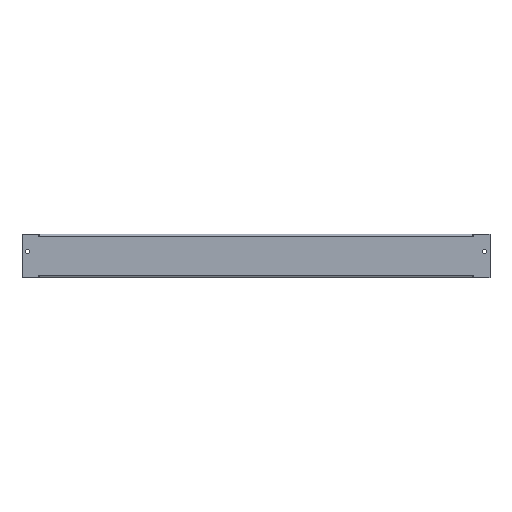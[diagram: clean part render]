
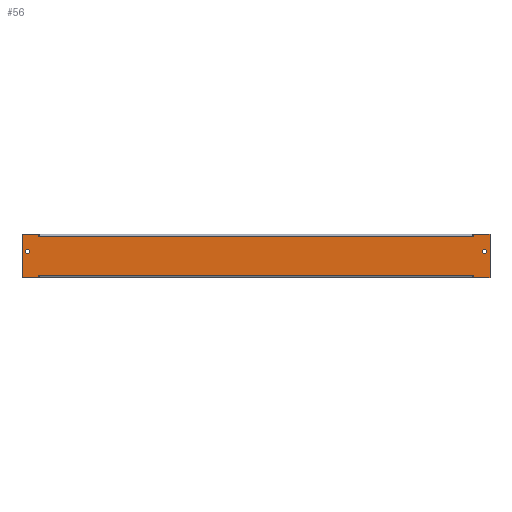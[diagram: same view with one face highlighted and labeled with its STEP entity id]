
A CAD part, top view. The second image highlights one B-rep face of the part: STEP entity #56.
In plain terms, the highlighted planar face has unit normal (0, 0, 1).
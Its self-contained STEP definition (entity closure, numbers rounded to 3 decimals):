
#56=ADVANCED_FACE('',(#118,#120,#122),#124,.F.);
#118=FACE_BOUND('',#119,.T.);
#119=EDGE_LOOP('',(#375,#376,#377,#378,#379,#380,#381,#382,#383,#384,#385,#386,#387,
#388,#389,#390));
#120=FACE_BOUND('',#121,.T.);
#121=EDGE_LOOP('',(#391));
#122=FACE_BOUND('',#123,.T.);
#123=EDGE_LOOP('',(#392));
#124=PLANE('',#125);
#125=AXIS2_PLACEMENT_3D('',#126,#127,#128);
#126=CARTESIAN_POINT('',(0.,0.,0.));
#127=DIRECTION('',(0.,0.,-1.));
#128=DIRECTION('',(-1.,0.,0.));
#375=ORIENTED_EDGE('',*,*,#541,.F.);
#376=ORIENTED_EDGE('',*,*,#542,.T.);
#377=ORIENTED_EDGE('',*,*,#543,.F.);
#378=ORIENTED_EDGE('',*,*,#544,.F.);
#379=ORIENTED_EDGE('',*,*,#545,.T.);
#380=ORIENTED_EDGE('',*,*,#546,.T.);
#381=ORIENTED_EDGE('',*,*,#547,.T.);
#382=ORIENTED_EDGE('',*,*,#548,.F.);
#383=ORIENTED_EDGE('',*,*,#549,.F.);
#384=ORIENTED_EDGE('',*,*,#550,.T.);
#385=ORIENTED_EDGE('',*,*,#551,.F.);
#386=ORIENTED_EDGE('',*,*,#552,.F.);
#387=ORIENTED_EDGE('',*,*,#553,.T.);
#388=ORIENTED_EDGE('',*,*,#554,.T.);
#389=ORIENTED_EDGE('',*,*,#555,.T.);
#390=ORIENTED_EDGE('',*,*,#556,.F.);
#391=ORIENTED_EDGE('',*,*,#521,.T.);
#392=ORIENTED_EDGE('',*,*,#523,.F.);
#521=EDGE_CURVE('',#605,#605,#606,.T.);
#523=EDGE_CURVE('',#609,#609,#610,.T.);
#541=EDGE_CURVE('',#645,#646,#647,.T.);
#542=EDGE_CURVE('',#645,#648,#649,.T.);
#543=EDGE_CURVE('',#650,#648,#651,.T.);
#544=EDGE_CURVE('',#652,#650,#653,.T.);
#545=EDGE_CURVE('',#652,#654,#655,.T.);
#546=EDGE_CURVE('',#654,#656,#657,.T.);
#547=EDGE_CURVE('',#656,#658,#659,.T.);
#548=EDGE_CURVE('',#660,#658,#661,.T.);
#549=EDGE_CURVE('',#662,#660,#663,.T.);
#550=EDGE_CURVE('',#662,#664,#665,.T.);
#551=EDGE_CURVE('',#666,#664,#667,.T.);
#552=EDGE_CURVE('',#668,#666,#669,.T.);
#553=EDGE_CURVE('',#668,#670,#671,.T.);
#554=EDGE_CURVE('',#670,#672,#673,.T.);
#555=EDGE_CURVE('',#672,#674,#675,.T.);
#556=EDGE_CURVE('',#646,#674,#676,.T.);
#605=VERTEX_POINT('',#741);
#606=CIRCLE('',#742,3.15);
#609=VERTEX_POINT('',#751);
#610=CIRCLE('',#752,3.15);
#645=VERTEX_POINT('',#825);
#646=VERTEX_POINT('',#826);
#647=LINE('',#827,#828);
#648=VERTEX_POINT('',#830);
#649=LINE('',#831,#832);
#650=VERTEX_POINT('',#834);
#651=LINE('',#835,#836);
#652=VERTEX_POINT('',#838);
#653=LINE('',#839,#840);
#654=VERTEX_POINT('',#842);
#655=LINE('',#843,#844);
#656=VERTEX_POINT('',#846);
#657=LINE('',#847,#848);
#658=VERTEX_POINT('',#850);
#659=LINE('',#851,#852);
#660=VERTEX_POINT('',#854);
#661=LINE('',#855,#856);
#662=VERTEX_POINT('',#858);
#663=LINE('',#859,#860);
#664=VERTEX_POINT('',#862);
#665=LINE('',#863,#864);
#666=VERTEX_POINT('',#866);
#667=LINE('',#867,#868);
#668=VERTEX_POINT('',#870);
#669=LINE('',#871,#872);
#670=VERTEX_POINT('',#874);
#671=LINE('',#875,#876);
#672=VERTEX_POINT('',#878);
#673=LINE('',#879,#880);
#674=VERTEX_POINT('',#882);
#675=LINE('',#883,#884);
#676=LINE('',#886,#887);
#741=CARTESIAN_POINT('',(331.15,6.5,0.));
#742=AXIS2_PLACEMENT_3D('',#743,#744,#745);
#743=CARTESIAN_POINT('',(328.,6.5,0.));
#744=DIRECTION('',(0.,0.,-1.));
#745=DIRECTION('',(1.,0.,0.));
#751=CARTESIAN_POINT('',(-324.85,6.5,0.));
#752=AXIS2_PLACEMENT_3D('',#753,#754,#755);
#753=CARTESIAN_POINT('',(-328.,6.5,0.));
#754=DIRECTION('',(0.,0.,1.));
#755=DIRECTION('',(-1.,0.,0.));
#825=CARTESIAN_POINT('',(311.,28.3,0.));
#826=CARTESIAN_POINT('',(313.,28.3,0.));
#827=CARTESIAN_POINT('',(311.,28.3,0.));
#828=VECTOR('',#829,1.);
#829=DIRECTION('',(1.,0.,0.));
#830=CARTESIAN_POINT('',(-311.,28.3,0.));
#831=CARTESIAN_POINT('',(311.,28.3,0.));
#832=VECTOR('',#833,1.);
#833=DIRECTION('',(-1.,0.,0.));
#834=CARTESIAN_POINT('',(-313.,28.3,0.));
#835=CARTESIAN_POINT('',(-313.,28.3,0.));
#836=VECTOR('',#837,1.);
#837=DIRECTION('',(1.,0.,0.));
#838=CARTESIAN_POINT('',(-313.,31.5,0.));
#839=CARTESIAN_POINT('',(-313.,31.5,0.));
#840=VECTOR('',#841,1.);
#841=DIRECTION('',(0.,-1.,0.));
#842=CARTESIAN_POINT('',(-336.,31.5,0.));
#843=CARTESIAN_POINT('',(-313.,31.5,0.));
#844=VECTOR('',#845,1.);
#845=DIRECTION('',(-1.,0.,0.));
#846=CARTESIAN_POINT('',(-336.,-31.5,0.));
#847=CARTESIAN_POINT('',(-336.,31.5,0.));
#848=VECTOR('',#849,1.);
#849=DIRECTION('',(0.,-1.,0.));
#850=CARTESIAN_POINT('',(-313.,-31.5,0.));
#851=CARTESIAN_POINT('',(-336.,-31.5,0.));
#852=VECTOR('',#853,1.);
#853=DIRECTION('',(1.,0.,0.));
#854=CARTESIAN_POINT('',(-313.,-28.3,0.));
#855=CARTESIAN_POINT('',(-313.,-28.3,0.));
#856=VECTOR('',#857,1.);
#857=DIRECTION('',(0.,-1.,0.));
#858=CARTESIAN_POINT('',(-311.,-28.3,0.));
#859=CARTESIAN_POINT('',(-311.,-28.3,0.));
#860=VECTOR('',#861,1.);
#861=DIRECTION('',(-1.,0.,0.));
#862=CARTESIAN_POINT('',(311.,-28.3,0.));
#863=CARTESIAN_POINT('',(-311.,-28.3,0.));
#864=VECTOR('',#865,1.);
#865=DIRECTION('',(1.,0.,0.));
#866=CARTESIAN_POINT('',(313.,-28.3,0.));
#867=CARTESIAN_POINT('',(313.,-28.3,0.));
#868=VECTOR('',#869,1.);
#869=DIRECTION('',(-1.,0.,0.));
#870=CARTESIAN_POINT('',(313.,-31.5,0.));
#871=CARTESIAN_POINT('',(313.,-31.5,0.));
#872=VECTOR('',#873,1.);
#873=DIRECTION('',(0.,1.,0.));
#874=CARTESIAN_POINT('',(336.,-31.5,0.));
#875=CARTESIAN_POINT('',(313.,-31.5,0.));
#876=VECTOR('',#877,1.);
#877=DIRECTION('',(1.,0.,0.));
#878=CARTESIAN_POINT('',(336.,31.5,0.));
#879=CARTESIAN_POINT('',(336.,-31.5,0.));
#880=VECTOR('',#881,1.);
#881=DIRECTION('',(0.,1.,0.));
#882=CARTESIAN_POINT('',(313.,31.5,0.));
#883=CARTESIAN_POINT('',(336.,31.5,0.));
#884=VECTOR('',#885,1.);
#885=DIRECTION('',(-1.,0.,0.));
#886=CARTESIAN_POINT('',(313.,28.3,0.));
#887=VECTOR('',#888,1.);
#888=DIRECTION('',(0.,1.,0.));
